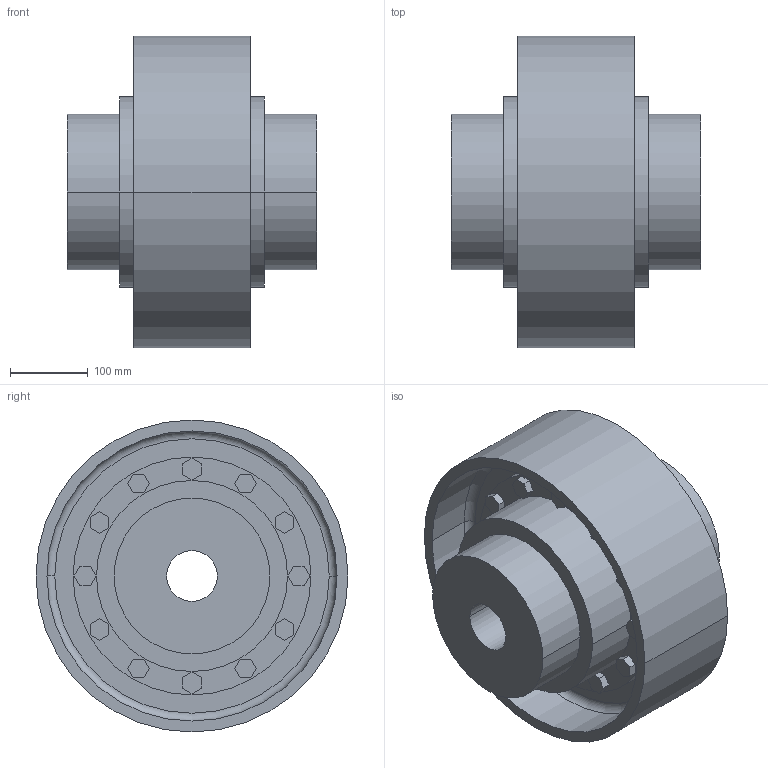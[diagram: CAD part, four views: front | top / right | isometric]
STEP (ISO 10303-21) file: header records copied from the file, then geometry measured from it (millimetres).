
FILE_DESCRIPTION((''),'2;1');
FILE_NAME('A19109700-0_ASM','2018-11-12T',('AB_Roschiwal'),('RENK AG'),'PRO/ENGINEER BY PARAMETRIC TECHNOLOGY CORPORATION, 2015440','PRO/ENGINEER BY PARAMETRIC TECHNOLOGY CORPORATION, 2015440','');
FILE_SCHEMA(('CONFIG_CONTROL_DESIGN'));
Length unit declared in the file: millimetre
Products named in the file (4): LBKD125_GEHAEUSE; LBKD125_NABE; LBKD125_BREMSSCHEIBE; A19109700-0_ASM
Assembly tree (4 placements, depth 2):
  A19109700-0_ASM
    LBKD125_GEHAEUSE
    LBKD125_NABE  x2
    LBKD125_BREMSSCHEIBE
Bounding box: 320 x 400 x 400 mm (x, y, z)
Volume: 15442391.6 mm3; surface area: 1366232.6 mm2
Topology: 4 solids, 4 shells, 292 faces, 704 edges, 468 vertices
Faces by surface type: plane 200, cylinder 88, torus 4
Entity records: 8356 total; most frequent: DIRECTION 1424, CARTESIAN_POINT 1420, ORIENTED_EDGE 1360, EDGE_CURVE 680, VECTOR 512, LINE 512, AXIS2_PLACEMENT_3D 456, VERTEX_POINT 452
